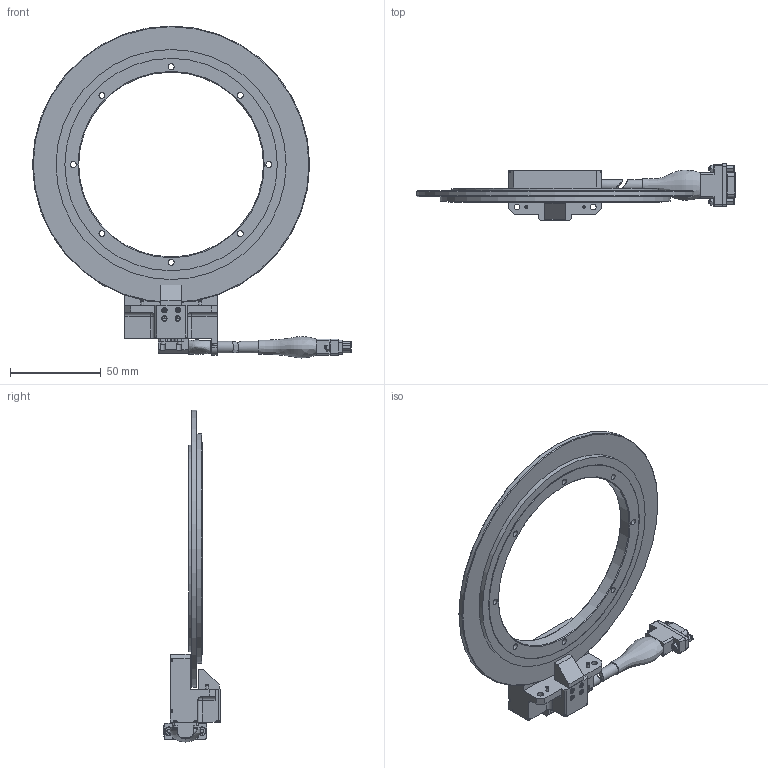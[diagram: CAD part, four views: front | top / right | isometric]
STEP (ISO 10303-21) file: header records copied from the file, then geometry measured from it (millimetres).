
FILE_DESCRIPTION (( 'STEP AP214' ), '1' );
FILE_NAME ('190-0315-04 Encoder Outline, 6 inch.STEP', '2020-07-17T20:36:47', ( '' ), ( '' ), 'SwSTEP 2.0', 'SolidWorks 2019', '' );
FILE_SCHEMA (( 'AUTOMOTIVE_DESIGN' ));
Length unit declared in the file: inch
Products named in the file (3): 190-0315-04 Encoder Outline, 6 inch; Disk Hub Assy, 6 inch; AIME-II Readhead Assy, Left Exit
Assembly tree (2 placements, depth 2):
  190-0315-04 Encoder Outline, 6 inch
    Disk Hub Assy, 6 inch
    AIME-II Readhead Assy, Left Exit
Bounding box: 175.39 x 31.12 x 182.58 mm (x, y, z)
Volume: 84066.5 mm3; surface area: 41044 mm2
Topology: 3 solids, 15 shells, 1573 faces, 3936 edges, 2567 vertices
Faces by surface type: plane 1048, cylinder 227, bspline 213, cone 81, sphere 2, torus 2
Full cylindrical faces by diameter (mm): 0.508 x15, 0.635 x15, 1.513 x1, 1.524 x12, 1.575 x2, 1.59 x2, 1.694 x2, 1.778 x12, 2.17 x4, 2.2 x2, 2.311 x2, 2.339 x1, 2.36 x2, 2.4 x2, 2.438 x18, 3.251 x2, 3.264 x8, 6.35 x3, 101.6 x1, 113.538 x1, 115.062 x1, 116.84 x1, 126.543 x1, 152.4 x1
Entity records: 88512 total; most frequent: CARTESIAN_POINT 33063, ORIENTED_EDGE 7254, DIRECTION 6456, EDGE_CURVE 3627, VECTOR 2616, LINE 2616, VERTEX_POINT 2466, EDGE_LOOP 2007
